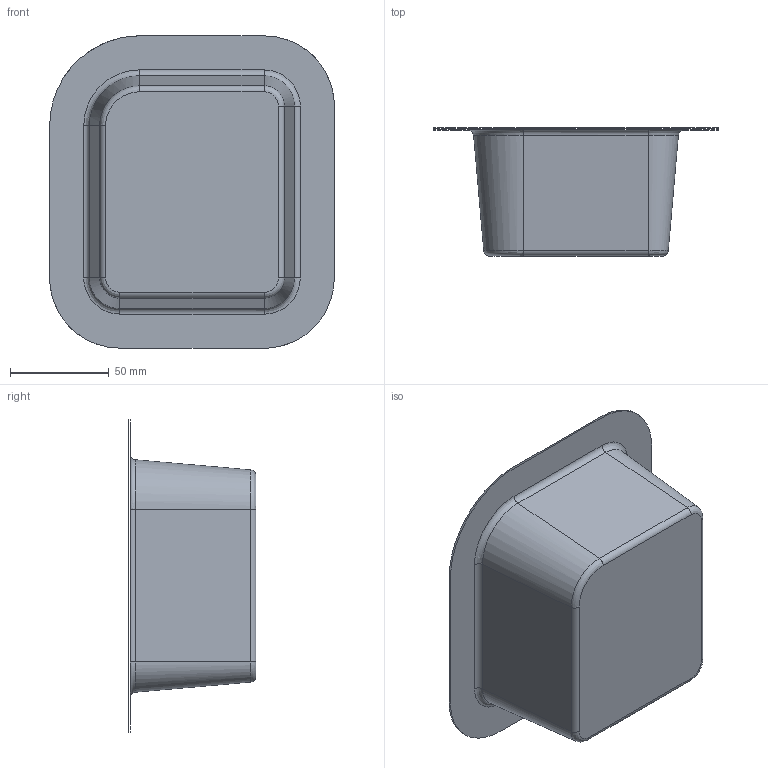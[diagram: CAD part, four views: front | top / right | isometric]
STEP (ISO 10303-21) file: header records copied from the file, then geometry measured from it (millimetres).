
FILE_DESCRIPTION(('CATIA V5 STEP Exchange'),'2;1');
FILE_NAME('C:\_Andres\UNIVERSIDAD\IQS\ASIGNATURAS\DAO\Controles\1617\c3\2inicio\Carreras_Buscato_control3_v7.stp','2017-02-17T14:22:03+00:00',('none'),('none'),'CATIA Version 5-6 Release 2014 SP1 HF18','CATIA V5 STEP AP203','none');
FILE_SCHEMA(('CONFIG_CONTROL_DESIGN'));
Length unit declared in the file: millimetre
Products named in the file (1): Carreras_Buscato_control3_v7
Bounding box: 144.16 x 64.76 x 158.16 mm (x, y, z)
Surface area: 65385.9 mm2 (no closed solid volume)
Topology: 0 solids, 2 shells, 27 faces, 80 edges, 57 vertices
Faces by surface type: bspline 16, cylinder 8, plane 3
Entity records: 2129 total; most frequent: CARTESIAN_POINT 1533, ORIENTED_EDGE 128, EDGE_CURVE 72, B_SPLINE_CURVE_WITH_KNOTS 54, DIRECTION 50, VERTEX_POINT 48, EDGE_LOOP 28, ADVANCED_FACE 27
